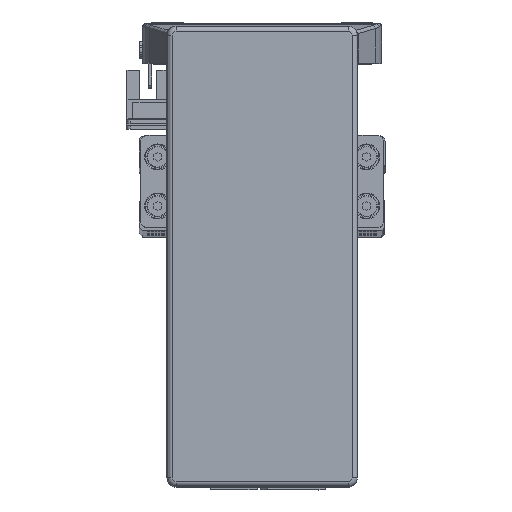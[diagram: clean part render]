
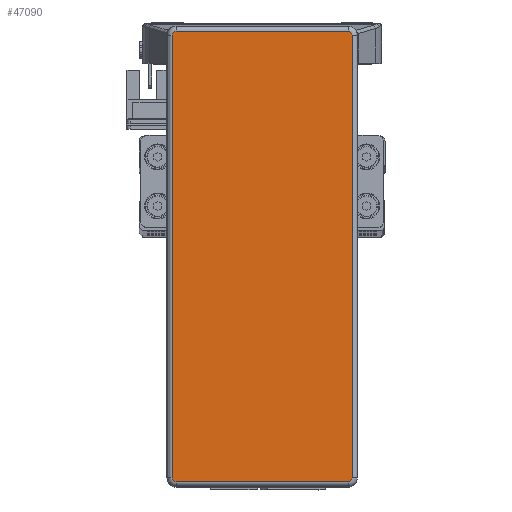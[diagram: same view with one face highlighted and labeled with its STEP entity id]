
A CAD part, top view. The second image highlights one B-rep face of the part: STEP entity #47090.
In plain terms, the highlighted planar face has unit normal (0, 0, 1) as drawn and (0, 0, -1) by its records, which use the part's own axes.
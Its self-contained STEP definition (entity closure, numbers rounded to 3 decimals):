
#91 = VERTEX_POINT ( 'NONE', #37649 ) ;
#491 = VERTEX_POINT ( 'NONE', #37607 ) ;
#747 = ORIENTED_EDGE ( 'NONE', *, *, #25026, .T. ) ;
#758 = ORIENTED_EDGE ( 'NONE', *, *, #25024, .T. ) ;
#788 = ORIENTED_EDGE ( 'NONE', *, *, #25060, .T. ) ;
#799 = ORIENTED_EDGE ( 'NONE', *, *, #25065, .T. ) ;
#852 = ORIENTED_EDGE ( 'NONE', *, *, #25061, .T. ) ;
#868 = ORIENTED_EDGE ( 'NONE', *, *, #25048, .T. ) ;
#881 = ORIENTED_EDGE ( 'NONE', *, *, #25030, .T. ) ;
#896 = ORIENTED_EDGE ( 'NONE', *, *, #25041, .T. ) ;
#5675 = VERTEX_POINT ( 'NONE', #37745 ) ;
#6599 = VERTEX_POINT ( 'NONE', #17392 ) ;
#6609 = VERTEX_POINT ( 'NONE', #17422 ) ;
#7036 = VERTEX_POINT ( 'NONE', #17405 ) ;
#8988 = EDGE_LOOP ( 'NONE', ( #868, #852, #758, #747, #788, #881, #799, #896 ) ) ;
#9622 = VERTEX_POINT ( 'NONE', #17376 ) ;
#13513 = VERTEX_POINT ( 'NONE', #19094 ) ;
#15815 = LINE ( 'NONE', #19457, #15859 ) ;
#15825 = CIRCLE ( 'NONE', #31447, 1.3 ) ;
#15829 = VECTOR ( 'NONE', #19751, 1000. ) ;
#15832 = CIRCLE ( 'NONE', #31415, 1.3 ) ;
#15841 = LINE ( 'NONE', #19700, #15829 ) ;
#15843 = VECTOR ( 'NONE', #19734, 1000. ) ;
#15848 = CIRCLE ( 'NONE', #31387, 1.3 ) ;
#15849 = CIRCLE ( 'NONE', #31398, 1.3 ) ;
#15850 = VECTOR ( 'NONE', #19598, 1000. ) ;
#15859 = VECTOR ( 'NONE', #19473, 1000. ) ;
#15861 = LINE ( 'NONE', #19658, #15850 ) ;
#15864 = LINE ( 'NONE', #19719, #15843 ) ;
#17376 = CARTESIAN_POINT ( 'NONE',  ( 73.295, -27.995, -32.2 ) ) ;
#17392 = CARTESIAN_POINT ( 'NONE',  ( -73.295, 27.995, -32.2 ) ) ;
#17405 = CARTESIAN_POINT ( 'NONE',  ( 73.295, 27.995, -32.2 ) ) ;
#17422 = CARTESIAN_POINT ( 'NONE',  ( -71.995, 29.295, -32.2 ) ) ;
#19094 = CARTESIAN_POINT ( 'NONE',  ( -71.995, -29.295, -32.2 ) ) ;
#19457 = CARTESIAN_POINT ( 'NONE',  ( 71.995, -29.295, -32.2 ) ) ;
#19459 = CARTESIAN_POINT ( 'NONE',  ( -71.995, -27.995, -32.2 ) ) ;
#19463 = DIRECTION ( 'NONE',  ( 0., 0., -1. ) ) ;
#19473 = DIRECTION ( 'NONE',  ( -1., 0., 0. ) ) ;
#19486 = DIRECTION ( 'NONE',  ( 1., 0., 0. ) ) ;
#19500 = CARTESIAN_POINT ( 'NONE',  ( -71.995, 27.995, -32.2 ) ) ;
#19526 = DIRECTION ( 'NONE',  ( 1., 0., 0. ) ) ;
#19533 = DIRECTION ( 'NONE',  ( 0., 0., -1. ) ) ;
#19598 = DIRECTION ( 'NONE',  ( 0., -1., 0. ) ) ;
#19645 = DIRECTION ( 'NONE',  ( 1., 0., 0. ) ) ;
#19658 = CARTESIAN_POINT ( 'NONE',  ( 73.295, -27.995, -32.2 ) ) ;
#19676 = DIRECTION ( 'NONE',  ( 0., 0., -1. ) ) ;
#19678 = CARTESIAN_POINT ( 'NONE',  ( 71.995, 27.995, -32.2 ) ) ;
#19700 = CARTESIAN_POINT ( 'NONE',  ( 71.995, 29.295, -32.2 ) ) ;
#19702 = DIRECTION ( 'NONE',  ( 1., 0., 0. ) ) ;
#19704 = CARTESIAN_POINT ( 'NONE',  ( 71.995, -27.995, -32.2 ) ) ;
#19719 = CARTESIAN_POINT ( 'NONE',  ( -73.295, -27.995, -32.2 ) ) ;
#19721 = DIRECTION ( 'NONE',  ( 0., 0., -1. ) ) ;
#19734 = DIRECTION ( 'NONE',  ( 0., 1., 0. ) ) ;
#19751 = DIRECTION ( 'NONE',  ( 1., 0., 0. ) ) ;
#21655 = AXIS2_PLACEMENT_3D ( 'NONE', #29752, #29724, #29737 ) ;
#25024 = EDGE_CURVE ( 'NONE', #491, #13513, #15815, .T. ) ;
#25026 = EDGE_CURVE ( 'NONE', #13513, #91, #15848, .T. ) ;
#25030 = EDGE_CURVE ( 'NONE', #6599, #6609, #15849, .T. ) ;
#25041 = EDGE_CURVE ( 'NONE', #5675, #7036, #15832, .T. ) ;
#25048 = EDGE_CURVE ( 'NONE', #7036, #9622, #15861, .T. ) ;
#25060 = EDGE_CURVE ( 'NONE', #91, #6599, #15864, .T. ) ;
#25061 = EDGE_CURVE ( 'NONE', #9622, #491, #15825, .T. ) ;
#25065 = EDGE_CURVE ( 'NONE', #6609, #5675, #15841, .T. ) ;
#29077 = FACE_OUTER_BOUND ( 'NONE', #8988, .T. ) ;
#29724 = DIRECTION ( 'NONE',  ( 0., 0., 1. ) ) ;
#29737 = DIRECTION ( 'NONE',  ( 1., 0., 0. ) ) ;
#29752 = CARTESIAN_POINT ( 'NONE',  ( 71.995, -27.995, -32.2 ) ) ;
#29806 = PLANE ( 'NONE',  #21655 ) ;
#31387 = AXIS2_PLACEMENT_3D ( 'NONE', #19459, #19463, #19486 ) ;
#31398 = AXIS2_PLACEMENT_3D ( 'NONE', #19500, #19533, #19526 ) ;
#31415 = AXIS2_PLACEMENT_3D ( 'NONE', #19678, #19676, #19645 ) ;
#31447 = AXIS2_PLACEMENT_3D ( 'NONE', #19704, #19721, #19702 ) ;
#37607 = CARTESIAN_POINT ( 'NONE',  ( 71.995, -29.295, -32.2 ) ) ;
#37649 = CARTESIAN_POINT ( 'NONE',  ( -73.295, -27.995, -32.2 ) ) ;
#37745 = CARTESIAN_POINT ( 'NONE',  ( 71.995, 29.295, -32.2 ) ) ;
#47090 = ADVANCED_FACE ( 'NONE', ( #29077 ), #29806, .F. ) ;
